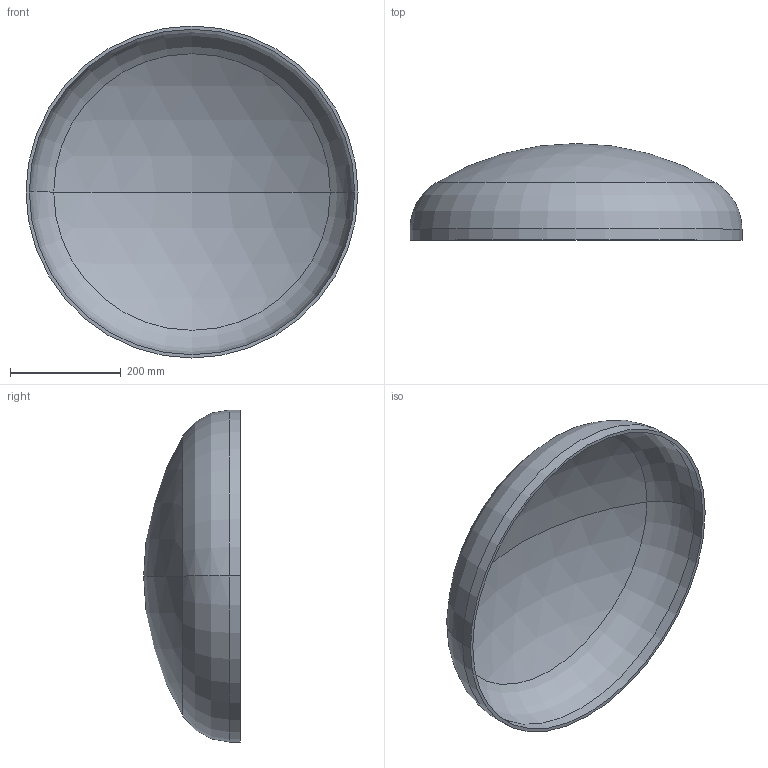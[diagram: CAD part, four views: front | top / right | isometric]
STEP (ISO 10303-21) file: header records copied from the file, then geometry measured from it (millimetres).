
FILE_DESCRIPTION (( 'STEP AP203' ), '1' );
FILE_NAME ('DIN 28013 Korbbogenform_-_Boden DIN 28013 - 600 x 20 - I - s=6.step', '2016-07-01T07:56:51', ( '' ), ( '' ), 'SwSTEP 2.0', 'SolidWorks 2013', '' );
FILE_SCHEMA (( 'CONFIG_CONTROL_DESIGN' ));
Length unit declared in the file: millimetre
Products named in the file (1): DIN 28013 Korbbogenform_-_Boden DIN 28013 - 600 x 20 - I - s=6
Bounding box: 600 x 174.73 x 600 mm (x, y, z)
Volume: 2540669.7 mm3; surface area: 858161.6 mm2
Topology: 1 solids, 1 shells, 13 faces, 24 edges, 14 vertices
Faces by surface type: torus 4, cylinder 4, sphere 4, plane 1
Entity records: 407 total; most frequent: DIRECTION 72, CARTESIAN_POINT 52, ORIENTED_EDGE 48, AXIS2_PLACEMENT_3D 34, EDGE_CURVE 24, CIRCLE 20, VERTEX_POINT 14, EDGE_LOOP 14
